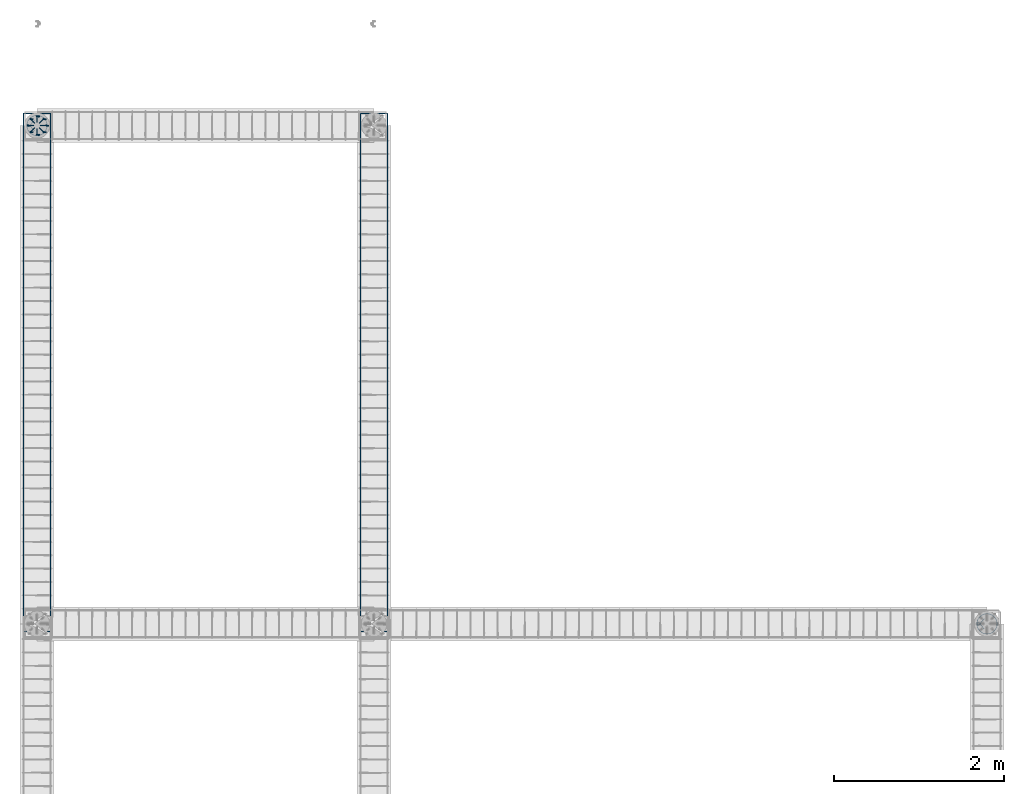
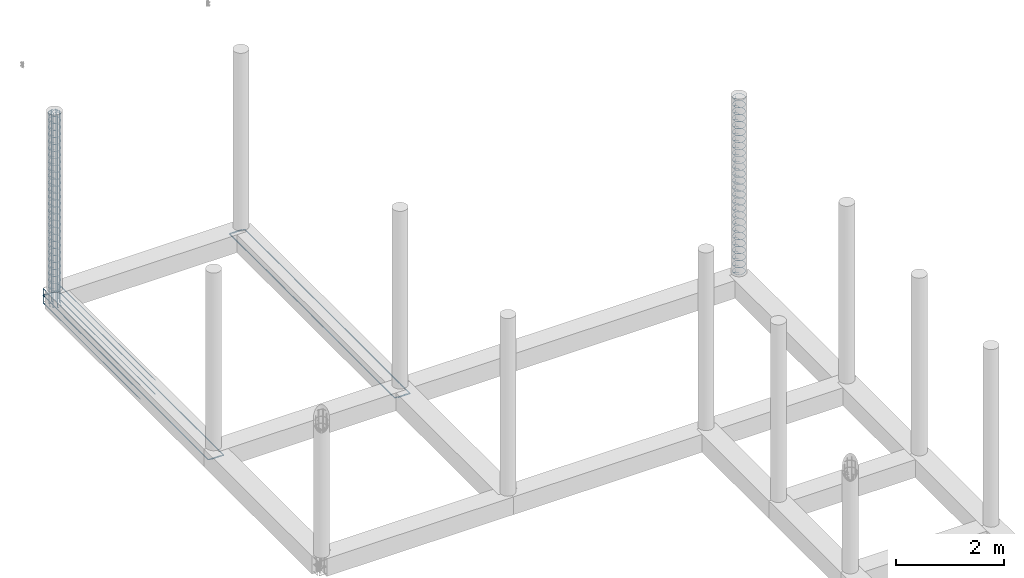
# One storey, part 15 of 20: 7 reinforcing bars.
"""IFC4 building model written with IfcOpenShell, lengths in metres."""

from ifc_helpers import new_model, entity, si_unit, origin_with_axes, place, context, project, spatial, source, transform, mapped, element, save


model = new_model("IFC4")

# Units and contexts
model_context = context("Model", 3, precision=1e-05, world=origin_with_axes())
ifc_project = project(units=[si_unit("LENGTHUNIT", "METRE"), si_unit("AREAUNIT", "SQUARE_METRE"), si_unit("VOLUMEUNIT", "CUBIC_METRE"), si_unit("MASSUNIT", "GRAM", prefix="KILO"), si_unit("TIMEUNIT", "SECOND"), si_unit("PLANEANGLEUNIT", "RADIAN"), si_unit("SOLIDANGLEUNIT", "STERADIAN"), si_unit("THERMODYNAMICTEMPERATUREUNIT", "DEGREE_CELSIUS")], contexts=[model_context])

# Site, building, storey
placement_1 = place(None, origin_with_axes())
site = spatial("IfcSite", under=ifc_project, at=placement_1, Name="Italia", CompositionType="ELEMENT")
building = spatial("IfcBuilding", under=site, at=placement_1, Name="Tettoia", CompositionType="ELEMENT")
storey = spatial("IfcBuildingStorey", under=building, at=placement_1, Name="Storey 0", CompositionType="ELEMENT", Elevation=0.0)

# Reinforcing bars
shared_shape_1 = source(origin_with_axes(), model_context, "Body", "AdvancedSweptSolid", [
    entity("IfcSweptDiskSolid", entity("IfcIndexedPolyCurve", entity("IfcCartesianPointList3D", [[11.2591, 13.8886, 0.029], [11.1957, 13.9605, 0.029], [11.1888, 13.9638, 0.029], [11.182, 13.9643, 0.029], [11.1781, 13.9637, 0.029], [11.1747, 13.9618, 0.029], [11.1724, 13.9587, 0.029], [11.1714, 13.9549, 0.029], [11.1711, 13.9507, 0.029], [11.1711, 13.9493, 0.029], [11.1725, 13.9322, 0.029], [11.1727, 13.9306, 0.029], [11.1767, 13.914, 0.029], [11.1772, 13.9125, 0.029], [11.1837, 13.8967, 0.029], [11.1844, 13.8953, 0.029], [11.1934, 13.8808, 0.029], [11.1943, 13.8795, 0.029], [11.2054, 13.8665, 0.029], [11.2065, 13.8654, 0.029], [11.2195, 13.8543, 0.029], [11.2208, 13.8534, 0.029], [11.2353, 13.8444, 0.029], [11.2367, 13.8437, 0.029], [11.2525, 13.8372, 0.029], [11.254, 13.8367, 0.029], [11.2706, 13.8327, 0.029], [11.2722, 13.8325, 0.029], [11.2892, 13.8311, 0.029], [11.2908, 13.8311, 0.029], [11.3078, 13.8325, 0.029], [11.3094, 13.8327, 0.029], [11.326, 13.8367, 0.029], [11.3275, 13.8372, 0.029], [11.3433, 13.8437, 0.029], [11.3447, 13.8444, 0.029], [11.3592, 13.8534, 0.029], [11.3605, 13.8543, 0.029], [11.3735, 13.8654, 0.029], [11.3746, 13.8665, 0.029], [11.3857, 13.8795, 0.029], [11.3866, 13.8808, 0.029], [11.3956, 13.8953, 0.029], [11.3963, 13.8967, 0.029], [11.4028, 13.9125, 0.029], [11.4033, 13.914, 0.029], [11.4073, 13.9306, 0.029], [11.4075, 13.9322, 0.029], [11.4089, 13.9492, 0.029], [11.4089, 13.9508, 0.029], [11.4075, 13.9678, 0.029], [11.4073, 13.9694, 0.029], [11.4033, 13.986, 0.029], [11.4028, 13.9875, 0.029], [11.3963, 14.0033, 0.029], [11.3956, 14.0047, 0.029], [11.3866, 14.0192, 0.029], [11.3857, 14.0205, 0.029], [11.3746, 14.0335, 0.029], [11.3735, 14.0346, 0.029], [11.3605, 14.0457, 0.029], [11.3592, 14.0466, 0.029], [11.3447, 14.0556, 0.029], [11.3433, 14.0563, 0.029], [11.3275, 14.0628, 0.029], [11.326, 14.0633, 0.029], [11.3094, 14.0673, 0.029], [11.3078, 14.0675, 0.029], [11.2908, 14.0689, 0.029], [11.2892, 14.0689, 0.029], [11.2722, 14.0675, 0.029], [11.2706, 14.0673, 0.029], [11.254, 14.0633, 0.029], [11.2525, 14.0628, 0.029], [11.2367, 14.0563, 0.029], [11.2353, 14.0556, 0.029], [11.2208, 14.0466, 0.029], [11.2195, 14.0457, 0.029], [11.2065, 14.0346, 0.029], [11.2054, 14.0335, 0.029], [11.1943, 14.0205, 0.029], [11.1934, 14.0192, 0.029], [11.1844, 14.0047, 0.029], [11.1837, 14.0033, 0.029], [11.1772, 13.9875, 0.029], [11.1767, 13.986, 0.029], [11.1727, 13.9694, 0.029], [11.1725, 13.9678, 0.029], [11.1711, 13.9507, 0.029], [11.1711, 13.9493, 0.029], [11.1714, 13.9451, 0.029], [11.1724, 13.9413, 0.029], [11.1747, 13.9382, 0.029], [11.1781, 13.9363, 0.029], [11.182, 13.9357, 0.029], [11.1888, 13.9362, 0.029], [11.1957, 13.9395, 0.029], [11.2591, 14.0114, 0.029]]), [entity("IfcLineIndex", [1, 2]), entity("IfcLineIndex", [2, 3]), entity("IfcLineIndex", [3, 4]), entity("IfcLineIndex", [4, 5]), entity("IfcLineIndex", [5, 6]), entity("IfcLineIndex", [6, 7]), entity("IfcLineIndex", [7, 8]), entity("IfcLineIndex", [8, 9]), entity("IfcLineIndex", [9, 10]), entity("IfcLineIndex", [10, 11]), entity("IfcLineIndex", [11, 12]), entity("IfcLineIndex", [12, 13]), entity("IfcLineIndex", [13, 14]), entity("IfcLineIndex", [14, 15]), entity("IfcLineIndex", [15, 16]), entity("IfcLineIndex", [16, 17]), entity("IfcLineIndex", [17, 18]), entity("IfcLineIndex", [18, 19]), entity("IfcLineIndex", [19, 20]), entity("IfcLineIndex", [20, 21]), entity("IfcLineIndex", [21, 22]), entity("IfcLineIndex", [22, 23]), entity("IfcLineIndex", [23, 24]), entity("IfcLineIndex", [24, 25]), entity("IfcLineIndex", [25, 26]), entity("IfcLineIndex", [26, 27]), entity("IfcLineIndex", [27, 28]), entity("IfcLineIndex", [28, 29]), entity("IfcLineIndex", [29, 30]), entity("IfcLineIndex", [30, 31]), entity("IfcLineIndex", [31, 32]), entity("IfcLineIndex", [32, 33]), entity("IfcLineIndex", [33, 34]), entity("IfcLineIndex", [34, 35]), entity("IfcLineIndex", [35, 36]), entity("IfcLineIndex", [36, 37]), entity("IfcLineIndex", [37, 38]), entity("IfcLineIndex", [38, 39]), entity("IfcLineIndex", [39, 40]), entity("IfcLineIndex", [40, 41]), entity("IfcLineIndex", [41, 42]), entity("IfcLineIndex", [42, 43]), entity("IfcLineIndex", [43, 44]), entity("IfcLineIndex", [44, 45]), entity("IfcLineIndex", [45, 46]), entity("IfcLineIndex", [46, 47]), entity("IfcLineIndex", [47, 48]), entity("IfcLineIndex", [48, 49]), entity("IfcLineIndex", [49, 50]), entity("IfcLineIndex", [50, 51]), entity("IfcLineIndex", [51, 52]), entity("IfcLineIndex", [52, 53]), entity("IfcLineIndex", [53, 54]), entity("IfcLineIndex", [54, 55]), entity("IfcLineIndex", [55, 56]), entity("IfcLineIndex", [56, 57]), entity("IfcLineIndex", [57, 58]), entity("IfcLineIndex", [58, 59]), entity("IfcLineIndex", [59, 60]), entity("IfcLineIndex", [60, 61]), entity("IfcLineIndex", [61, 62]), entity("IfcLineIndex", [62, 63]), entity("IfcLineIndex", [63, 64]), entity("IfcLineIndex", [64, 65]), entity("IfcLineIndex", [65, 66]), entity("IfcLineIndex", [66, 67]), entity("IfcLineIndex", [67, 68]), entity("IfcLineIndex", [68, 69]), entity("IfcLineIndex", [69, 70]), entity("IfcLineIndex", [70, 71]), entity("IfcLineIndex", [71, 72]), entity("IfcLineIndex", [72, 73]), entity("IfcLineIndex", [73, 74]), entity("IfcLineIndex", [74, 75]), entity("IfcLineIndex", [75, 76]), entity("IfcLineIndex", [76, 77]), entity("IfcLineIndex", [77, 78]), entity("IfcLineIndex", [78, 79]), entity("IfcLineIndex", [79, 80]), entity("IfcLineIndex", [80, 81]), entity("IfcLineIndex", [81, 82]), entity("IfcLineIndex", [82, 83]), entity("IfcLineIndex", [83, 84]), entity("IfcLineIndex", [84, 85]), entity("IfcLineIndex", [85, 86]), entity("IfcLineIndex", [86, 87]), entity("IfcLineIndex", [87, 88]), entity("IfcLineIndex", [88, 89]), entity("IfcLineIndex", [89, 90]), entity("IfcLineIndex", [90, 91]), entity("IfcLineIndex", [91, 92]), entity("IfcLineIndex", [92, 93]), entity("IfcLineIndex", [93, 94]), entity("IfcLineIndex", [94, 95]), entity("IfcLineIndex", [95, 96]), entity("IfcLineIndex", [96, 97]), entity("IfcLineIndex", [97, 98])], False), 0.004),
])
placement_2 = place(placement_1, origin_with_axes())
reinforcing_bar_1_placement = place(placement_2, origin_with_axes())
element("IfcReinforcingBar", 1, at=reinforcing_bar_1_placement, inside=storey, BarLength=1.00814, CrossSectionArea=5.0265e-05, NominalDiameter=0.008, context=model_context, shape_type="MappedRepresentation", body=[
    mapped(shared_shape_1, transform((0.0, 0.0, 1.8768), x_axis=(1.0, 0.0, 0.0), y_axis=(0.0, 1.0, 0.0), z_axis=(0.0, 0.0, 1.0), scale=1.0)),
    mapped(shared_shape_1, transform((0.0, 0.0, 1.7204), x_axis=(1.0, 0.0, 0.0), y_axis=(0.0, 1.0, 0.0), z_axis=(0.0, 0.0, 1.0), scale=1.0)),
    mapped(shared_shape_1, transform((0.0, 0.0, 1.0948), x_axis=(1.0, 0.0, 0.0), y_axis=(0.0, 1.0, 0.0), z_axis=(0.0, 0.0, 1.0), scale=1.0)),
    mapped(shared_shape_1, transform((0.0, 0.0, 1.4076), x_axis=(1.0, 0.0, 0.0), y_axis=(0.0, 1.0, 0.0), z_axis=(0.0, 0.0, 1.0), scale=1.0)),
    mapped(shared_shape_1, transform((0.0, 0.0, 1.2512), x_axis=(1.0, 0.0, 0.0), y_axis=(0.0, 1.0, 0.0), z_axis=(0.0, 0.0, 1.0), scale=1.0)),
    mapped(shared_shape_1, transform((0.0, 0.0, 1.564), x_axis=(1.0, 0.0, 0.0), y_axis=(0.0, 1.0, 0.0), z_axis=(0.0, 0.0, 1.0), scale=1.0)),
    mapped(shared_shape_1, transform((0.0, 0.0, 0.9384), x_axis=(1.0, 0.0, 0.0), y_axis=(0.0, 1.0, 0.0), z_axis=(0.0, 0.0, 1.0), scale=1.0)),
    mapped(shared_shape_1, transform((0.0, 0.0, 0.782), x_axis=(1.0, 0.0, 0.0), y_axis=(0.0, 1.0, 0.0), z_axis=(0.0, 0.0, 1.0), scale=1.0)),
    mapped(shared_shape_1, transform((0.0, 0.0, 0.1564), x_axis=(1.0, 0.0, 0.0), y_axis=(0.0, 1.0, 0.0), z_axis=(0.0, 0.0, 1.0), scale=1.0)),
    mapped(shared_shape_1, transform((0.0, 0.0, 0.4692), x_axis=(1.0, 0.0, 0.0), y_axis=(0.0, 1.0, 0.0), z_axis=(0.0, 0.0, 1.0), scale=1.0)),
    mapped(shared_shape_1, transform((0.0, 0.0, 0.3128), x_axis=(1.0, 0.0, 0.0), y_axis=(0.0, 1.0, 0.0), z_axis=(0.0, 0.0, 1.0), scale=1.0)),
    mapped(shared_shape_1, transform((0.0, 0.0, 0.6256), x_axis=(1.0, 0.0, 0.0), y_axis=(0.0, 1.0, 0.0), z_axis=(0.0, 0.0, 1.0), scale=1.0)),
    mapped(shared_shape_1, transform((0.0, 0.0, 0.0), x_axis=(1.0, 0.0, 0.0), y_axis=(0.0, 1.0, 0.0), z_axis=(0.0, 0.0, 1.0), scale=1.0)),
    mapped(shared_shape_1, transform((0.0, 0.0, 3.91), x_axis=(1.0, 0.0, 0.0), y_axis=(0.0, 1.0, 0.0), z_axis=(0.0, 0.0, 1.0), scale=1.0)),
    mapped(shared_shape_1, transform((0.0, 0.0, 3.2844), x_axis=(1.0, 0.0, 0.0), y_axis=(0.0, 1.0, 0.0), z_axis=(0.0, 0.0, 1.0), scale=1.0)),
    mapped(shared_shape_1, transform((0.0, 0.0, 3.5972), x_axis=(1.0, 0.0, 0.0), y_axis=(0.0, 1.0, 0.0), z_axis=(0.0, 0.0, 1.0), scale=1.0)),
    mapped(shared_shape_1, transform((0.0, 0.0, 3.4408), x_axis=(1.0, 0.0, 0.0), y_axis=(0.0, 1.0, 0.0), z_axis=(0.0, 0.0, 1.0), scale=1.0)),
    mapped(shared_shape_1, transform((0.0, 0.0, 3.7536), x_axis=(1.0, 0.0, 0.0), y_axis=(0.0, 1.0, 0.0), z_axis=(0.0, 0.0, 1.0), scale=1.0)),
    mapped(shared_shape_1, transform((0.0, 0.0, 3.128), x_axis=(1.0, 0.0, 0.0), y_axis=(0.0, 1.0, 0.0), z_axis=(0.0, 0.0, 1.0), scale=1.0)),
    mapped(shared_shape_1, transform((0.0, 0.0, 2.9716), x_axis=(1.0, 0.0, 0.0), y_axis=(0.0, 1.0, 0.0), z_axis=(0.0, 0.0, 1.0), scale=1.0)),
    mapped(shared_shape_1, transform((0.0, 0.0, 2.346), x_axis=(1.0, 0.0, 0.0), y_axis=(0.0, 1.0, 0.0), z_axis=(0.0, 0.0, 1.0), scale=1.0)),
    mapped(shared_shape_1, transform((0.0, 0.0, 2.6588), x_axis=(1.0, 0.0, 0.0), y_axis=(0.0, 1.0, 0.0), z_axis=(0.0, 0.0, 1.0), scale=1.0)),
    mapped(shared_shape_1, transform((0.0, 0.0, 2.5024), x_axis=(1.0, 0.0, 0.0), y_axis=(0.0, 1.0, 0.0), z_axis=(0.0, 0.0, 1.0), scale=1.0)),
    mapped(shared_shape_1, transform((0.0, 0.0, 2.8152), x_axis=(1.0, 0.0, 0.0), y_axis=(0.0, 1.0, 0.0), z_axis=(0.0, 0.0, 1.0), scale=1.0)),
    mapped(shared_shape_1, transform((0.0, 0.0, 2.1896), x_axis=(1.0, 0.0, 0.0), y_axis=(0.0, 1.0, 0.0), z_axis=(0.0, 0.0, 1.0), scale=1.0)),
    mapped(shared_shape_1, transform((0.0, 0.0, 2.0332), x_axis=(1.0, 0.0, 0.0), y_axis=(0.0, 1.0, 0.0), z_axis=(0.0, 0.0, 1.0), scale=1.0)),
])
shared_shape_2 = source(origin_with_axes(), model_context, "Body", "AdvancedSweptSolid", [
    entity("IfcSweptDiskSolid", entity("IfcIndexedPolyCurve", entity("IfcCartesianPointList3D", [[0.0210233, 19.816, -0.375], [0.00714291, 19.8179, -0.375], [0.000965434, 19.8187, -0.373761], [-0.00427158, 19.8194, -0.370231], [-0.00777084, 19.8198, -0.364949], [-0.00899962, 19.82, -0.358718], [-0.00899962, 19.82, 0.5725]]), [entity("IfcLineIndex", [1, 2]), entity("IfcLineIndex", [2, 3]), entity("IfcLineIndex", [3, 4]), entity("IfcLineIndex", [4, 5]), entity("IfcLineIndex", [5, 6]), entity("IfcLineIndex", [6, 7])], False), 0.007),
])
reinforcing_bar_2_placement = place(placement_2, origin_with_axes())
element("IfcReinforcingBar", 2, at=reinforcing_bar_2_placement, inside=storey, BarLength=0.97063, CrossSectionArea=0.00015394, NominalDiameter=0.014, context=model_context, shape_type="MappedRepresentation", body=[
    mapped(shared_shape_2, transform((0.217916, 0.0, 0.0), x_axis=(1.0, 0.0, 0.0), y_axis=(0.0, 1.0, 0.0), z_axis=(0.0, 0.0, 1.0), scale=1.0)),
    mapped(shared_shape_2, transform((0.0319252, -0.0770741, 0.0), x_axis=(1.0, 0.0, 0.0), y_axis=(0.0, 1.0, 0.0), z_axis=(0.0, 0.0, 1.0), scale=1.0)),
    mapped(shared_shape_2, transform((0.0319252, 0.0770741, 0.0), x_axis=(1.0, 0.0, 0.0), y_axis=(0.0, 1.0, 0.0), z_axis=(0.0, 0.0, 1.0), scale=1.0)),
    mapped(shared_shape_2, transform((0.108956, -0.108999, 0.0), x_axis=(1.0, 0.0, 0.0), y_axis=(0.0, 1.0, 0.0), z_axis=(0.0, 0.0, 1.0), scale=1.0)),
    mapped(shared_shape_2, transform((0.186073, -0.0770721, 0.0), x_axis=(1.0, 0.0, 0.0), y_axis=(0.0, 1.0, 0.0), z_axis=(0.0, 0.0, 1.0), scale=1.0)),
    mapped(shared_shape_2, transform((0.186073, 0.077076, 0.0), x_axis=(1.0, 0.0, 0.0), y_axis=(0.0, 1.0, 0.0), z_axis=(0.0, 0.0, 1.0), scale=1.0)),
    mapped(shared_shape_2, transform((0.0, 0.0, 0.0), x_axis=(1.0, 0.0, 0.0), y_axis=(0.0, 1.0, 0.0), z_axis=(0.0, 0.0, 1.0), scale=1.0)),
    mapped(shared_shape_2, transform((0.109002, 0.108999, 0.0), x_axis=(1.0, 0.0, 0.0), y_axis=(0.0, 1.0, 0.0), z_axis=(0.0, 0.0, 1.0), scale=1.0)),
])
shared_shape_3 = source(origin_with_axes(), model_context, "Body", "AdvancedSweptSolid", [
    entity("IfcSweptDiskSolid", entity("IfcIndexedPolyCurve", entity("IfcCartesianPointList3D", [[-0.00899962, 19.82, 0.0], [-0.00899962, 19.82, 3.94], [-0.0063354, 19.82, 3.95339], [0.00125165, 19.82, 3.96475], [0.0126065, 19.82, 3.97234], [0.0260004, 19.82, 3.975], [0.0660004, 19.82, 3.975]]), [entity("IfcLineIndex", [1, 2]), entity("IfcLineIndex", [2, 3]), entity("IfcLineIndex", [3, 4]), entity("IfcLineIndex", [4, 5]), entity("IfcLineIndex", [5, 6]), entity("IfcLineIndex", [6, 7])], False), 0.007),
])
reinforcing_bar_3_placement = place(placement_2, origin_with_axes())
element("IfcReinforcingBar", 3, at=reinforcing_bar_3_placement, inside=storey, BarLength=4.03463, CrossSectionArea=0.00015394, NominalDiameter=0.014, context=model_context, shape_type="MappedRepresentation", body=[
    mapped(shared_shape_3, transform((14.1854, 33.7643, 0.0), x_axis=(-0.707114, 0.7071, 0.0), y_axis=(-0.7071, -0.707114, 0.0), z_axis=(0.0, 0.0, 1.0), scale=1.0)),
    mapped(shared_shape_3, transform((0.2, 39.64, 0.0), x_axis=(-1.0, 0.0, 0.0), y_axis=(0.0, -1.0, 0.0), z_axis=(0.0, 0.0, 1.0), scale=1.0)),
    mapped(shared_shape_3, transform((14.044, 5.73429, 0.0), x_axis=(0.707114, 0.707099, 0.0), y_axis=(-0.707099, 0.707114, 0.0), z_axis=(0.0, 0.0, 1.0), scale=1.0)),
    mapped(shared_shape_3, transform((19.92, 19.72, 0.0), x_axis=(0.0, 1.0, 0.0), y_axis=(-1.0, 0.0, 0.0), z_axis=(0.0, 0.0, 1.0), scale=1.0)),
    mapped(shared_shape_3, transform((-13.9854, 5.87571, 0.0), x_axis=(0.707114, -0.707099, 0.0), y_axis=(0.707099, 0.707114, 0.0), z_axis=(0.0, 0.0, 1.0), scale=1.0)),
    mapped(shared_shape_3, transform((0.0, 0.0, 0.0), x_axis=(1.0, 0.0, 0.0), y_axis=(0.0, 1.0, 0.0), z_axis=(0.0, 0.0, 1.0), scale=1.0)),
    mapped(shared_shape_3, transform((-13.844, 33.9057, 0.0), x_axis=(-0.707114, -0.7071, 0.0), y_axis=(0.7071, -0.707114, 0.0), z_axis=(0.0, 0.0, 1.0), scale=1.0)),
    mapped(shared_shape_3, transform((-19.72, 19.92, 0.0), x_axis=(0.0, -1.0, 0.0), y_axis=(1.0, 0.0, 0.0), z_axis=(0.0, 0.0, 1.0), scale=1.0)),
])
shared_shape_4 = source(origin_with_axes(), model_context, "Body", "AdvancedSweptSolid", [
    entity("IfcSweptDiskSolid", entity("IfcIndexedPolyCurve", entity("IfcCartesianPointList3D", [[0.0690919, 19.7586, 0.029], [0.00569162, 19.8305, 0.029], [-0.00118195, 19.8338, 0.029], [-0.00802632, 19.8343, 0.029], [-0.0118933, 19.8337, 0.029], [-0.0152671, 19.8318, 0.029], [-0.0176339, 19.8287, 0.029], [-0.0186335, 19.8249, 0.029], [-0.018897, 19.8207, 0.029], [-0.0188859, 19.8193, 0.029], [-0.0175388, 19.8022, 0.029], [-0.0172933, 19.8006, 0.029], [-0.0133037, 19.784, 0.029], [-0.0128188, 19.7825, 0.029], [-0.00627872, 19.7667, 0.029], [-0.00556632, 19.7653, 0.029], [0.00336316, 19.7508, 0.029], [0.0042855, 19.7495, 0.029], [0.0153847, 19.7365, 0.029], [0.0164943, 19.7354, 0.029], [0.0294895, 19.7243, 0.029], [0.030759, 19.7234, 0.029], [0.0453307, 19.7144, 0.029], [0.0467289, 19.7137, 0.029], [0.062518, 19.7072, 0.029], [0.0640104, 19.7067, 0.029], [0.0806282, 19.7027, 0.029], [0.0821781, 19.7025, 0.029], [0.0992154, 19.7011, 0.029], [0.100785, 19.7011, 0.029], [0.117822, 19.7025, 0.029], [0.119372, 19.7027, 0.029], [0.13599, 19.7067, 0.029], [0.137482, 19.7072, 0.029], [0.153271, 19.7137, 0.029], [0.154669, 19.7144, 0.029], [0.169241, 19.7234, 0.029], [0.17051, 19.7243, 0.029], [0.183506, 19.7354, 0.029], [0.184615, 19.7365, 0.029], [0.195715, 19.7495, 0.029], [0.196637, 19.7508, 0.029], [0.205566, 19.7653, 0.029], [0.206279, 19.7667, 0.029], [0.212819, 19.7825, 0.029], [0.213304, 19.784, 0.029], [0.217293, 19.8006, 0.029], [0.217539, 19.8022, 0.029], [0.21888, 19.8192, 0.029], [0.21888, 19.8208, 0.029], [0.217539, 19.8378, 0.029], [0.217293, 19.8394, 0.029], [0.213304, 19.856, 0.029], [0.212819, 19.8575, 0.029], [0.206279, 19.8733, 0.029], [0.205566, 19.8747, 0.029], [0.196637, 19.8892, 0.029], [0.195714, 19.8905, 0.029], [0.184615, 19.9035, 0.029], [0.183506, 19.9046, 0.029], [0.170511, 19.9157, 0.029], [0.169241, 19.9166, 0.029], [0.154669, 19.9256, 0.029], [0.153271, 19.9263, 0.029], [0.137482, 19.9328, 0.029], [0.13599, 19.9333, 0.029], [0.119372, 19.9373, 0.029], [0.117822, 19.9375, 0.029], [0.100785, 19.9389, 0.029], [0.0992154, 19.9389, 0.029], [0.0821781, 19.9375, 0.029], [0.0806282, 19.9373, 0.029], [0.0640103, 19.9333, 0.029], [0.0625179, 19.9328, 0.029], [0.0467289, 19.9263, 0.029], [0.0453307, 19.9256, 0.029], [0.0307591, 19.9166, 0.029], [0.0294896, 19.9157, 0.029], [0.0164941, 19.9046, 0.029], [0.0153846, 19.9035, 0.029], [0.00428557, 19.8905, 0.029], [0.00336323, 19.8892, 0.029], [-0.00556631, 19.8747, 0.029], [-0.00627871, 19.8733, 0.029], [-0.0128188, 19.8575, 0.029], [-0.0133037, 19.856, 0.029], [-0.0172933, 19.8394, 0.029], [-0.0175387, 19.8378, 0.029], [-0.0188859, 19.8207, 0.029], [-0.018897, 19.8193, 0.029], [-0.0186335, 19.8151, 0.029], [-0.0176339, 19.8113, 0.029], [-0.0152671, 19.8082, 0.029], [-0.0118933, 19.8063, 0.029], [-0.00802632, 19.8057, 0.029], [-0.00118195, 19.8062, 0.029], [0.00569162, 19.8095, 0.029], [0.0690919, 19.8814, 0.029]]), [entity("IfcLineIndex", [1, 2]), entity("IfcLineIndex", [2, 3]), entity("IfcLineIndex", [3, 4]), entity("IfcLineIndex", [4, 5]), entity("IfcLineIndex", [5, 6]), entity("IfcLineIndex", [6, 7]), entity("IfcLineIndex", [7, 8]), entity("IfcLineIndex", [8, 9]), entity("IfcLineIndex", [9, 10]), entity("IfcLineIndex", [10, 11]), entity("IfcLineIndex", [11, 12]), entity("IfcLineIndex", [12, 13]), entity("IfcLineIndex", [13, 14]), entity("IfcLineIndex", [14, 15]), entity("IfcLineIndex", [15, 16]), entity("IfcLineIndex", [16, 17]), entity("IfcLineIndex", [17, 18]), entity("IfcLineIndex", [18, 19]), entity("IfcLineIndex", [19, 20]), entity("IfcLineIndex", [20, 21]), entity("IfcLineIndex", [21, 22]), entity("IfcLineIndex", [22, 23]), entity("IfcLineIndex", [23, 24]), entity("IfcLineIndex", [24, 25]), entity("IfcLineIndex", [25, 26]), entity("IfcLineIndex", [26, 27]), entity("IfcLineIndex", [27, 28]), entity("IfcLineIndex", [28, 29]), entity("IfcLineIndex", [29, 30]), entity("IfcLineIndex", [30, 31]), entity("IfcLineIndex", [31, 32]), entity("IfcLineIndex", [32, 33]), entity("IfcLineIndex", [33, 34]), entity("IfcLineIndex", [34, 35]), entity("IfcLineIndex", [35, 36]), entity("IfcLineIndex", [36, 37]), entity("IfcLineIndex", [37, 38]), entity("IfcLineIndex", [38, 39]), entity("IfcLineIndex", [39, 40]), entity("IfcLineIndex", [40, 41]), entity("IfcLineIndex", [41, 42]), entity("IfcLineIndex", [42, 43]), entity("IfcLineIndex", [43, 44]), entity("IfcLineIndex", [44, 45]), entity("IfcLineIndex", [45, 46]), entity("IfcLineIndex", [46, 47]), entity("IfcLineIndex", [47, 48]), entity("IfcLineIndex", [48, 49]), entity("IfcLineIndex", [49, 50]), entity("IfcLineIndex", [50, 51]), entity("IfcLineIndex", [51, 52]), entity("IfcLineIndex", [52, 53]), entity("IfcLineIndex", [53, 54]), entity("IfcLineIndex", [54, 55]), entity("IfcLineIndex", [55, 56]), entity("IfcLineIndex", [56, 57]), entity("IfcLineIndex", [57, 58]), entity("IfcLineIndex", [58, 59]), entity("IfcLineIndex", [59, 60]), entity("IfcLineIndex", [60, 61]), entity("IfcLineIndex", [61, 62]), entity("IfcLineIndex", [62, 63]), entity("IfcLineIndex", [63, 64]), entity("IfcLineIndex", [64, 65]), entity("IfcLineIndex", [65, 66]), entity("IfcLineIndex", [66, 67]), entity("IfcLineIndex", [67, 68]), entity("IfcLineIndex", [68, 69]), entity("IfcLineIndex", [69, 70]), entity("IfcLineIndex", [70, 71]), entity("IfcLineIndex", [71, 72]), entity("IfcLineIndex", [72, 73]), entity("IfcLineIndex", [73, 74]), entity("IfcLineIndex", [74, 75]), entity("IfcLineIndex", [75, 76]), entity("IfcLineIndex", [76, 77]), entity("IfcLineIndex", [77, 78]), entity("IfcLineIndex", [78, 79]), entity("IfcLineIndex", [79, 80]), entity("IfcLineIndex", [80, 81]), entity("IfcLineIndex", [81, 82]), entity("IfcLineIndex", [82, 83]), entity("IfcLineIndex", [83, 84]), entity("IfcLineIndex", [84, 85]), entity("IfcLineIndex", [85, 86]), entity("IfcLineIndex", [86, 87]), entity("IfcLineIndex", [87, 88]), entity("IfcLineIndex", [88, 89]), entity("IfcLineIndex", [89, 90]), entity("IfcLineIndex", [90, 91]), entity("IfcLineIndex", [91, 92]), entity("IfcLineIndex", [92, 93]), entity("IfcLineIndex", [93, 94]), entity("IfcLineIndex", [94, 95]), entity("IfcLineIndex", [95, 96]), entity("IfcLineIndex", [96, 97]), entity("IfcLineIndex", [97, 98])], False), 0.004),
])
reinforcing_bar_4_placement = place(placement_2, origin_with_axes())
element("IfcReinforcingBar", 4, at=reinforcing_bar_4_placement, inside=storey, BarLength=1.00815, CrossSectionArea=5.0265e-05, NominalDiameter=0.008, context=model_context, shape_type="MappedRepresentation", body=[
    mapped(shared_shape_4, transform((0.0, 0.0, 1.8768), x_axis=(1.0, 0.0, 0.0), y_axis=(0.0, 1.0, 0.0), z_axis=(0.0, 0.0, 1.0), scale=1.0)),
    mapped(shared_shape_4, transform((0.0, 0.0, 1.7204), x_axis=(1.0, 0.0, 0.0), y_axis=(0.0, 1.0, 0.0), z_axis=(0.0, 0.0, 1.0), scale=1.0)),
    mapped(shared_shape_4, transform((0.0, 0.0, 1.0948), x_axis=(1.0, 0.0, 0.0), y_axis=(0.0, 1.0, 0.0), z_axis=(0.0, 0.0, 1.0), scale=1.0)),
    mapped(shared_shape_4, transform((0.0, 0.0, 1.4076), x_axis=(1.0, 0.0, 0.0), y_axis=(0.0, 1.0, 0.0), z_axis=(0.0, 0.0, 1.0), scale=1.0)),
    mapped(shared_shape_4, transform((0.0, 0.0, 1.2512), x_axis=(1.0, 0.0, 0.0), y_axis=(0.0, 1.0, 0.0), z_axis=(0.0, 0.0, 1.0), scale=1.0)),
    mapped(shared_shape_4, transform((0.0, 0.0, 1.564), x_axis=(1.0, 0.0, 0.0), y_axis=(0.0, 1.0, 0.0), z_axis=(0.0, 0.0, 1.0), scale=1.0)),
    mapped(shared_shape_4, transform((0.0, 0.0, 0.9384), x_axis=(1.0, 0.0, 0.0), y_axis=(0.0, 1.0, 0.0), z_axis=(0.0, 0.0, 1.0), scale=1.0)),
    mapped(shared_shape_4, transform((0.0, 0.0, 0.782), x_axis=(1.0, 0.0, 0.0), y_axis=(0.0, 1.0, 0.0), z_axis=(0.0, 0.0, 1.0), scale=1.0)),
    mapped(shared_shape_4, transform((0.0, 0.0, 0.1564), x_axis=(1.0, 0.0, 0.0), y_axis=(0.0, 1.0, 0.0), z_axis=(0.0, 0.0, 1.0), scale=1.0)),
    mapped(shared_shape_4, transform((0.0, 0.0, 0.4692), x_axis=(1.0, 0.0, 0.0), y_axis=(0.0, 1.0, 0.0), z_axis=(0.0, 0.0, 1.0), scale=1.0)),
    mapped(shared_shape_4, transform((0.0, 0.0, 0.3128), x_axis=(1.0, 0.0, 0.0), y_axis=(0.0, 1.0, 0.0), z_axis=(0.0, 0.0, 1.0), scale=1.0)),
    mapped(shared_shape_4, transform((0.0, 0.0, 0.6256), x_axis=(1.0, 0.0, 0.0), y_axis=(0.0, 1.0, 0.0), z_axis=(0.0, 0.0, 1.0), scale=1.0)),
    mapped(shared_shape_4, transform((0.0, 0.0, 0.0), x_axis=(1.0, 0.0, 0.0), y_axis=(0.0, 1.0, 0.0), z_axis=(0.0, 0.0, 1.0), scale=1.0)),
    mapped(shared_shape_4, transform((0.0, 0.0, 3.91), x_axis=(1.0, 0.0, 0.0), y_axis=(0.0, 1.0, 0.0), z_axis=(0.0, 0.0, 1.0), scale=1.0)),
    mapped(shared_shape_4, transform((0.0, 0.0, 3.2844), x_axis=(1.0, 0.0, 0.0), y_axis=(0.0, 1.0, 0.0), z_axis=(0.0, 0.0, 1.0), scale=1.0)),
    mapped(shared_shape_4, transform((0.0, 0.0, 3.5972), x_axis=(1.0, 0.0, 0.0), y_axis=(0.0, 1.0, 0.0), z_axis=(0.0, 0.0, 1.0), scale=1.0)),
    mapped(shared_shape_4, transform((0.0, 0.0, 3.4408), x_axis=(1.0, 0.0, 0.0), y_axis=(0.0, 1.0, 0.0), z_axis=(0.0, 0.0, 1.0), scale=1.0)),
    mapped(shared_shape_4, transform((0.0, 0.0, 3.7536), x_axis=(1.0, 0.0, 0.0), y_axis=(0.0, 1.0, 0.0), z_axis=(0.0, 0.0, 1.0), scale=1.0)),
    mapped(shared_shape_4, transform((0.0, 0.0, 3.128), x_axis=(1.0, 0.0, 0.0), y_axis=(0.0, 1.0, 0.0), z_axis=(0.0, 0.0, 1.0), scale=1.0)),
    mapped(shared_shape_4, transform((0.0, 0.0, 2.9716), x_axis=(1.0, 0.0, 0.0), y_axis=(0.0, 1.0, 0.0), z_axis=(0.0, 0.0, 1.0), scale=1.0)),
    mapped(shared_shape_4, transform((0.0, 0.0, 2.346), x_axis=(1.0, 0.0, 0.0), y_axis=(0.0, 1.0, 0.0), z_axis=(0.0, 0.0, 1.0), scale=1.0)),
    mapped(shared_shape_4, transform((0.0, 0.0, 2.6588), x_axis=(1.0, 0.0, 0.0), y_axis=(0.0, 1.0, 0.0), z_axis=(0.0, 0.0, 1.0), scale=1.0)),
    mapped(shared_shape_4, transform((0.0, 0.0, 2.5024), x_axis=(1.0, 0.0, 0.0), y_axis=(0.0, 1.0, 0.0), z_axis=(0.0, 0.0, 1.0), scale=1.0)),
    mapped(shared_shape_4, transform((0.0, 0.0, 2.8152), x_axis=(1.0, 0.0, 0.0), y_axis=(0.0, 1.0, 0.0), z_axis=(0.0, 0.0, 1.0), scale=1.0)),
    mapped(shared_shape_4, transform((0.0, 0.0, 2.1896), x_axis=(1.0, 0.0, 0.0), y_axis=(0.0, 1.0, 0.0), z_axis=(0.0, 0.0, 1.0), scale=1.0)),
    mapped(shared_shape_4, transform((0.0, 0.0, 2.0332), x_axis=(1.0, 0.0, 0.0), y_axis=(0.0, 1.0, 0.0), z_axis=(0.0, 0.0, 1.0), scale=1.0)),
])
shared_shape_5 = source(origin_with_axes(), model_context, "Body", "AdvancedSweptSolid", [
    entity("IfcSweptDiskSolid", entity("IfcIndexedPolyCurve", entity("IfcCartesianPointList3D", [[0.189, 13.86, -0.194], [-0.051, 13.86, -0.194], [-0.0548268, 13.8608, -0.194], [-0.0580711, 13.8629, -0.194], [-0.0602388, 13.8662, -0.194], [-0.061, 13.87, -0.194], [-0.061, 19.95, -0.194], [-0.0602388, 19.9538, -0.194], [-0.0580711, 19.9571, -0.194], [-0.0548268, 19.9592, -0.194], [-0.051, 19.96, -0.194], [0.189, 19.96, -0.194]]), [entity("IfcLineIndex", [1, 2]), entity("IfcLineIndex", [2, 3]), entity("IfcLineIndex", [3, 4]), entity("IfcLineIndex", [4, 5]), entity("IfcLineIndex", [5, 6]), entity("IfcLineIndex", [6, 7]), entity("IfcLineIndex", [7, 8]), entity("IfcLineIndex", [8, 9]), entity("IfcLineIndex", [9, 10]), entity("IfcLineIndex", [10, 11]), entity("IfcLineIndex", [11, 12])], False), 0.006),
])
reinforcing_bar_5_placement = place(placement_2, origin_with_axes())
element("IfcReinforcingBar", 5, at=reinforcing_bar_5_placement, inside=storey, BarLength=6.59121, CrossSectionArea=0.0001131, NominalDiameter=0.012, context=model_context, shape_type="MappedRepresentation", body=[
    mapped(shared_shape_5, transform((0.2, 0.0, -0.4), x_axis=(-1.0, 0.0, 0.0), y_axis=(0.0, 1.0, 0.0), z_axis=(0.0, 0.0, -1.0), scale=1.0)),
    mapped(shared_shape_5, transform((0.0, 0.0, 0.0), x_axis=(1.0, 0.0, 0.0), y_axis=(0.0, 1.0, 0.0), z_axis=(0.0, 0.0, 1.0), scale=1.0)),
])
shared_shape_6 = source(origin_with_axes(), model_context, "Body", "AdvancedSweptSolid", [
    entity("IfcSweptDiskSolid", entity("IfcIndexedPolyCurve", entity("IfcCartesianPointList3D", [[0.259, 16.3773, -0.359], [0.259, 16.96, -0.359], [0.259, 19.82, -0.359], [0.259, 19.95, -0.359], [0.259, 19.9538, -0.358239], [0.259, 19.9571, -0.356071], [0.259, 19.9592, -0.352827], [0.259, 19.96, -0.349], [0.259, 19.96, -0.109]]), [entity("IfcLineIndex", [1, 2]), entity("IfcLineIndex", [2, 3]), entity("IfcLineIndex", [3, 4]), entity("IfcLineIndex", [4, 5]), entity("IfcLineIndex", [5, 6]), entity("IfcLineIndex", [6, 7]), entity("IfcLineIndex", [7, 8]), entity("IfcLineIndex", [8, 9])], False), 0.008),
])
reinforcing_bar_6_placement = place(placement_2, origin_with_axes())
element("IfcReinforcingBar", 6, at=reinforcing_bar_6_placement, inside=storey, BarLength=3.82834, CrossSectionArea=0.00020106, NominalDiameter=0.016, context=model_context, shape_type="MappedRepresentation", body=[
    mapped(shared_shape_6, transform((-0.318, 0.0, 0.0), x_axis=(1.0, 0.0, 0.0), y_axis=(0.0, 1.0, 0.0), z_axis=(0.0, 0.0, 1.0), scale=1.0)),
    mapped(shared_shape_6, transform((0.0, 0.0, 0.0), x_axis=(1.0, 0.0, 0.0), y_axis=(0.0, 1.0, 0.0), z_axis=(0.0, 0.0, 1.0), scale=1.0)),
    mapped(shared_shape_6, transform((0.2, 0.0, -0.4), x_axis=(-1.0, 0.0, 0.0), y_axis=(0.0, 1.0, 0.0), z_axis=(0.0, 0.0, -1.0), scale=1.0)),
    mapped(shared_shape_6, transform((0.518, 0.0, -0.4), x_axis=(-1.0, 0.0, 0.0), y_axis=(0.0, 1.0, 0.0), z_axis=(0.0, 0.0, -1.0), scale=1.0)),
])
shared_shape_7 = source(origin_with_axes(), model_context, "Body", "AdvancedSweptSolid", [
    entity("IfcSweptDiskSolid", entity("IfcIndexedPolyCurve", entity("IfcCartesianPointList3D", [[4.159, 13.86, -0.194], [3.919, 13.86, -0.194], [3.91517, 13.8608, -0.194], [3.91193, 13.8629, -0.194], [3.90976, 13.8662, -0.194], [3.909, 13.87, -0.194], [3.909, 19.95, -0.194], [3.90976, 19.9538, -0.194], [3.91193, 19.9571, -0.194], [3.91517, 19.9592, -0.194], [3.919, 19.96, -0.194], [4.159, 19.96, -0.194]]), [entity("IfcLineIndex", [1, 2]), entity("IfcLineIndex", [2, 3]), entity("IfcLineIndex", [3, 4]), entity("IfcLineIndex", [4, 5]), entity("IfcLineIndex", [5, 6]), entity("IfcLineIndex", [6, 7]), entity("IfcLineIndex", [7, 8]), entity("IfcLineIndex", [8, 9]), entity("IfcLineIndex", [9, 10]), entity("IfcLineIndex", [10, 11]), entity("IfcLineIndex", [11, 12])], False), 0.006),
])
reinforcing_bar_7_placement = place(placement_2, origin_with_axes())
element("IfcReinforcingBar", 7, at=reinforcing_bar_7_placement, inside=storey, BarLength=6.59121, CrossSectionArea=0.0001131, NominalDiameter=0.012, context=model_context, shape_type="MappedRepresentation", body=[
    mapped(shared_shape_7, transform((8.14, 0.0, -0.4), x_axis=(-1.0, 0.0, 0.0), y_axis=(0.0, 1.0, 0.0), z_axis=(0.0, 0.0, -1.0), scale=1.0)),
    mapped(shared_shape_7, transform((0.0, 0.0, 0.0), x_axis=(1.0, 0.0, 0.0), y_axis=(0.0, 1.0, 0.0), z_axis=(0.0, 0.0, 1.0), scale=1.0)),
])

save(model, "model.ifc")
